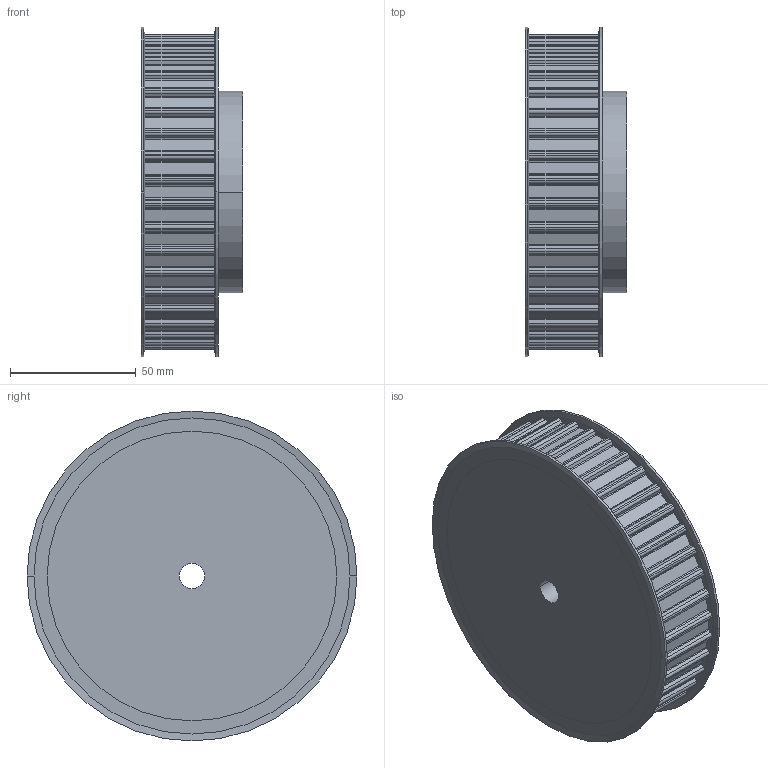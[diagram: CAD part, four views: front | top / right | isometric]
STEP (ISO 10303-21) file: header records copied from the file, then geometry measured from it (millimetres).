
FILE_DESCRIPTION( ( '' ), '1' );
FILE_NAME( 'C:/Users/Stangenbergd/Documents/CAD_Step/1/16834000.stp', '2021-10-19T09:46:02', ( '' ), ( '' ), ' ', ' ', ' ' );
FILE_SCHEMA( ( 'CONFIG_CONTROL_DESIGN' ) );
Length unit declared in the file: millimetre
Products named in the file (1): 1
Bounding box: 40.24 x 131 x 131 mm (x, y, z)
Volume: 403021 mm3; surface area: 48448.5 mm2
Topology: 1 solids, 1 shells, 425 faces, 1092 edges, 672 vertices
Faces by surface type: cylinder 212, plane 205, cone 8
Entity records: 12962 total; most frequent: DIRECTION 2456, CARTESIAN_POINT 2190, ORIENTED_EDGE 2184, EDGE_CURVE 1092, AXIS2_PLACEMENT_3D 938, VERTEX_POINT 672, LINE 580, VECTOR 580
